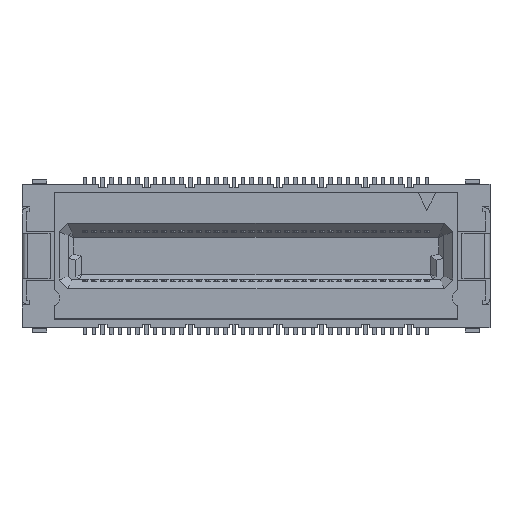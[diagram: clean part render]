
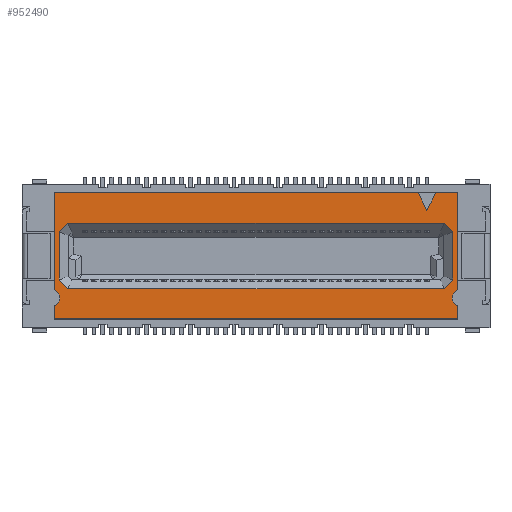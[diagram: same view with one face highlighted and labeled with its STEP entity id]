
A CAD part, top view. The second image highlights one B-rep face of the part: STEP entity #952490.
In plain terms, the highlighted planar face has unit normal (0, 0, 1).
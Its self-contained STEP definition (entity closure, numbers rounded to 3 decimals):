
#2760=CARTESIAN_POINT('',(20.034,-0.955,4.));
#2770=VERTEX_POINT('',#2760);
#2800=CARTESIAN_POINT('',(19.787,-1.202,4.));
#2810=DIRECTION('',(-0.707,-0.707,0.));
#2820=VECTOR('',#2810,1.);
#2830=LINE('',#2800,#2820);
#2840=CARTESIAN_POINT('',(19.541,-1.448,4.));
#2850=VERTEX_POINT('',#2840);
#2860=EDGE_CURVE('',#2770,#2850,#2830,.T.);
#51450=CARTESIAN_POINT('',(19.541,2.292,4.));
#51460=VERTEX_POINT('',#51450);
#51490=CARTESIAN_POINT('',(19.787,2.045,4.));
#51500=DIRECTION('',(0.707,-0.707,0.));
#51510=VECTOR('',#51500,1.);
#51520=LINE('',#51490,#51510);
#51530=CARTESIAN_POINT('',(20.034,1.799,4.));
#51540=VERTEX_POINT('',#51530);
#51550=EDGE_CURVE('',#51460,#51540,#51520,.T.);
#95610=CARTESIAN_POINT('',(-1.924,2.292,4.));
#95620=VERTEX_POINT('',#95610);
#95650=CARTESIAN_POINT('',(-6.946,2.292,4.));
#95660=DIRECTION('',(1.,0.,0.));
#95670=VECTOR('',#95660,1.);
#95680=LINE('',#95650,#95670);
#95690=EDGE_CURVE('',#95620,#51460,#95680,.T.);
#103610=CARTESIAN_POINT('',(20.309,-1.52,4.));
#103620=VERTEX_POINT('',#103610);
#103780=CARTESIAN_POINT('',(20.309,-2.436,4.));
#103790=VERTEX_POINT('',#103780);
#103820=CARTESIAN_POINT('',(20.509,-1.978,4.));
#103830=DIRECTION('',(0.,0.,1.));
#103840=DIRECTION('',(1.,0.,0.));
#103850=AXIS2_PLACEMENT_3D('',#103820,#103830,#103840);
#103860=CIRCLE('',#103850,0.5);
#103870=EDGE_CURVE('',#103620,#103790,#103860,.T.);
#104010=CARTESIAN_POINT('',(20.309,-3.178,4.));
#104020=VERTEX_POINT('',#104010);
#104070=CARTESIAN_POINT('',(20.309,0.,4.));
#104080=DIRECTION('',(0.,-1.,0.));
#104090=VECTOR('',#104080,1.);
#104100=LINE('',#104070,#104090);
#104110=EDGE_CURVE('',#103790,#104020,#104100,.T.);
#109460=CARTESIAN_POINT('',(17.048,0.,4.));
#109470=DIRECTION('',(0.447,0.894,0.));
#109480=VECTOR('',#109470,1.);
#109490=LINE('',#109460,#109480);
#109500=CARTESIAN_POINT('',(18.559,3.022,4.));
#109510=VERTEX_POINT('',#109500);
#109520=CARTESIAN_POINT('',(19.059,4.022,4.));
#109530=VERTEX_POINT('',#109520);
#109540=EDGE_CURVE('',#109510,#109530,#109490,.T.);
#201190=CARTESIAN_POINT('',(20.07,0.,4.));
#201200=DIRECTION('',(0.447,-0.894,0.));
#201210=VECTOR('',#201200,1.);
#201220=LINE('',#201190,#201210);
#201230=CARTESIAN_POINT('',(18.059,4.022,4.));
#201240=VERTEX_POINT('',#201230);
#201250=EDGE_CURVE('',#201240,#109510,#201220,.T.);
#260050=CARTESIAN_POINT('',(20.309,0.,4.));
#260060=DIRECTION('',(0.,-1.,0.));
#260070=VECTOR('',#260060,1.);
#260080=LINE('',#260050,#260070);
#260090=CARTESIAN_POINT('',(20.309,4.022,4.));
#260100=VERTEX_POINT('',#260090);
#260110=EDGE_CURVE('',#260100,#103620,#260080,.T.);
#349720=CARTESIAN_POINT('',(20.034,0.422,4.));
#349730=DIRECTION('',(0.,1.,0.));
#349740=VECTOR('',#349730,1.);
#349750=LINE('',#349720,#349740);
#349760=EDGE_CURVE('',#2770,#51540,#349750,.T.);
#722440=CARTESIAN_POINT('',(-1.924,-1.448,4.));
#722450=VERTEX_POINT('',#722440);
#722480=CARTESIAN_POINT('',(-2.17,-1.202,4.));
#722490=DIRECTION('',(0.707,-0.707,0.));
#722500=VECTOR('',#722490,1.);
#722510=LINE('',#722480,#722500);
#722520=CARTESIAN_POINT('',(-2.416,-0.955,4.));
#722530=VERTEX_POINT('',#722520);
#722540=EDGE_CURVE('',#722530,#722450,#722510,.T.);
#944220=CARTESIAN_POINT('',(-2.416,1.799,4.));
#944230=VERTEX_POINT('',#944220);
#944260=CARTESIAN_POINT('',(-2.17,2.045,4.));
#944270=DIRECTION('',(-0.707,-0.707,0.));
#944280=VECTOR('',#944270,1.);
#944290=LINE('',#944260,#944280);
#944300=EDGE_CURVE('',#95620,#944230,#944290,.T.);
#944410=CARTESIAN_POINT('',(-2.416,0.422,4.));
#944420=DIRECTION('',(0.,1.,0.));
#944430=VECTOR('',#944420,1.);
#944440=LINE('',#944410,#944430);
#944450=EDGE_CURVE('',#722530,#944230,#944440,.T.);
#951770=CARTESIAN_POINT('',(-15.581,-1.448,4.));
#951780=DIRECTION('',(-1.,0.,0.));
#951790=VECTOR('',#951780,1.);
#951800=LINE('',#951770,#951790);
#951810=EDGE_CURVE('',#2850,#722450,#951800,.T.);
#951860=CARTESIAN_POINT('',(-3.691,-2.313,4.));
#951870=DIRECTION('',(0.,0.,1.));
#951880=DIRECTION('',(1.,0.,0.));
#951890=AXIS2_PLACEMENT_3D('',#951860,#951870,#951880);
#951900=PLANE('',#951890);
#951910=ORIENTED_EDGE('',*,*,#201250,.F.);
#951920=ORIENTED_EDGE('',*,*,#109540,.F.);
#951930=CARTESIAN_POINT('',(5.,4.022,4.));
#951940=DIRECTION('',(-1.,0.,0.));
#951950=VECTOR('',#951940,1.);
#951960=LINE('',#951930,#951950);
#951970=EDGE_CURVE('',#260100,#109530,#951960,.T.);
#951980=ORIENTED_EDGE('',*,*,#951970,.T.);
#951990=ORIENTED_EDGE('',*,*,#260110,.F.);
#952000=ORIENTED_EDGE('',*,*,#103870,.F.);
#952010=ORIENTED_EDGE('',*,*,#104110,.F.);
#952020=CARTESIAN_POINT('',(17.617,-3.178,4.));
#952030=DIRECTION('',(-1.,0.,0.));
#952040=VECTOR('',#952030,1.);
#952050=LINE('',#952020,#952040);
#952060=CARTESIAN_POINT('',(-2.691,-3.178,4.));
#952070=VERTEX_POINT('',#952060);
#952080=EDGE_CURVE('',#104020,#952070,#952050,.T.);
#952090=ORIENTED_EDGE('',*,*,#952080,.F.);
#952100=CARTESIAN_POINT('',(-2.691,0.,4.));
#952110=DIRECTION('',(0.,1.,0.));
#952120=VECTOR('',#952110,1.);
#952130=LINE('',#952100,#952120);
#952140=CARTESIAN_POINT('',(-2.691,-2.436,4.));
#952150=VERTEX_POINT('',#952140);
#952160=EDGE_CURVE('',#952070,#952150,#952130,.T.);
#952170=ORIENTED_EDGE('',*,*,#952160,.F.);
#952180=CARTESIAN_POINT('',(-2.891,-1.978,4.));
#952190=DIRECTION('',(0.,0.,-1.));
#952200=DIRECTION('',(-1.,0.,0.));
#952210=AXIS2_PLACEMENT_3D('',#952180,#952190,#952200);
#952220=CIRCLE('',#952210,0.5);
#952230=CARTESIAN_POINT('',(-2.691,-1.52,4.));
#952240=VERTEX_POINT('',#952230);
#952250=EDGE_CURVE('',#952240,#952150,#952220,.T.);
#952260=ORIENTED_EDGE('',*,*,#952250,.T.);
#952270=CARTESIAN_POINT('',(-2.691,4.022,4.));
#952280=VERTEX_POINT('',#952270);
#952290=EDGE_CURVE('',#952240,#952280,#952130,.T.);
#952300=ORIENTED_EDGE('',*,*,#952290,.F.);
#952310=CARTESIAN_POINT('',(20.,4.022,4.));
#952320=DIRECTION('',(-1.,0.,0.));
#952330=VECTOR('',#952320,1.);
#952340=LINE('',#952310,#952330);
#952350=EDGE_CURVE('',#201240,#952280,#952340,.T.);
#952360=ORIENTED_EDGE('',*,*,#952350,.T.);
#952370=EDGE_LOOP('',(#952360,#952300,#952260,#952170,#952090,#952010,
#952000,#951990,#951980,#951920,#951910));
#952380=FACE_OUTER_BOUND('',#952370,.T.);
#952390=ORIENTED_EDGE('',*,*,#944300,.F.);
#952400=ORIENTED_EDGE('',*,*,#944450,.T.);
#952410=ORIENTED_EDGE('',*,*,#722540,.F.);
#952420=ORIENTED_EDGE('',*,*,#951810,.T.);
#952430=ORIENTED_EDGE('',*,*,#2860,.T.);
#952440=ORIENTED_EDGE('',*,*,#349760,.F.);
#952450=ORIENTED_EDGE('',*,*,#51550,.T.);
#952460=ORIENTED_EDGE('',*,*,#95690,.T.);
#952470=EDGE_LOOP('',(#952460,#952450,#952440,#952430,#952420,#952410,
#952400,#952390));
#952480=FACE_BOUND('',#952470,.T.);
#952490=ADVANCED_FACE('',(#952380,#952480),#951900,.T.);
